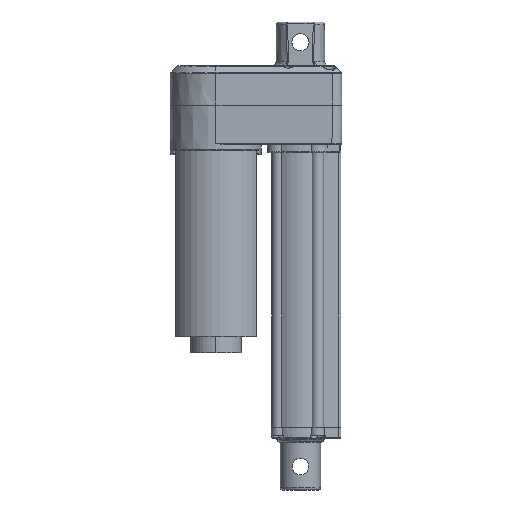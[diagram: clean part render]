
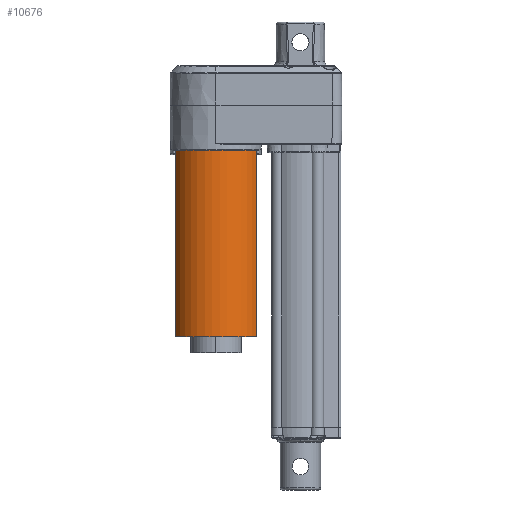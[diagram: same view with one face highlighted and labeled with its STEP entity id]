
A CAD part, front view. The second image highlights one B-rep face of the part: STEP entity #10676.
In plain terms, the highlighted cylindrical face has radius 22.5 mm (diameter 45 mm), a partial arc.
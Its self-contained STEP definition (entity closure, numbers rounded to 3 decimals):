
#107 = CARTESIAN_POINT ( 'NONE',  ( 0., 0., 92.3 ) ) ;
#1744 = LINE ( 'NONE', #23571, #10774 ) ;
#1859 = EDGE_CURVE ( 'NONE', #22512, #10139, #1744, .T. ) ;
#2175 = AXIS2_PLACEMENT_3D ( 'NONE', #107, #11652, #21245 ) ;
#2572 = CARTESIAN_POINT ( 'NONE',  ( 0., 0., 0. ) ) ;
#2654 = DIRECTION ( 'NONE',  ( 0., 0., 1. ) ) ;
#3058 = ORIENTED_EDGE ( 'NONE', *, *, #3819, .T. ) ;
#3819 = EDGE_CURVE ( 'NONE', #18571, #12207, #4438, .T. ) ;
#4438 = LINE ( 'NONE', #19027, #14036 ) ;
#4543 = DIRECTION ( 'NONE',  ( 1., 0., 0. ) ) ;
#8050 = FACE_OUTER_BOUND ( 'NONE', #20835, .T. ) ;
#8351 = ORIENTED_EDGE ( 'NONE', *, *, #22222, .F. ) ;
#9429 = DIRECTION ( 'NONE',  ( 0., 0., 1. ) ) ;
#10139 = VERTEX_POINT ( 'NONE', #13517 ) ;
#10414 = CARTESIAN_POINT ( 'NONE',  ( 10.308, 20., 92.3 ) ) ;
#10676 = ADVANCED_FACE ( 'NONE', ( #8050 ), #11958, .T. ) ;
#10774 = VECTOR ( 'NONE', #12049, 1000. ) ;
#11652 = DIRECTION ( 'NONE',  ( 0., 0., -1. ) ) ;
#11958 = CYLINDRICAL_SURFACE ( 'NONE', #2175, 22.5 ) ;
#12049 = DIRECTION ( 'NONE',  ( 0., 0., -1. ) ) ;
#12207 = VERTEX_POINT ( 'NONE', #10414 ) ;
#13517 = CARTESIAN_POINT ( 'NONE',  ( 10.308, -20., 0. ) ) ;
#14036 = VECTOR ( 'NONE', #9429, 1000. ) ;
#14166 = CARTESIAN_POINT ( 'NONE',  ( 0., 0., 92.3 ) ) ;
#16006 = DIRECTION ( 'NONE',  ( 0., 0., 1. ) ) ;
#16073 = DIRECTION ( 'NONE',  ( 1., 0., 0. ) ) ;
#16562 = AXIS2_PLACEMENT_3D ( 'NONE', #14166, #2654, #16073 ) ;
#16810 = ORIENTED_EDGE ( 'NONE', *, *, #1859, .T. ) ;
#18571 = VERTEX_POINT ( 'NONE', #21703 ) ;
#19027 = CARTESIAN_POINT ( 'NONE',  ( 10.308, 20., 92.3 ) ) ;
#20097 = EDGE_CURVE ( 'NONE', #10139, #18571, #22791, .T. ) ;
#20835 = EDGE_LOOP ( 'NONE', ( #8351, #16810, #21097, #3058 ) ) ;
#20978 = CARTESIAN_POINT ( 'NONE',  ( 10.308, -20., 92.3 ) ) ;
#21097 = ORIENTED_EDGE ( 'NONE', *, *, #20097, .T. ) ;
#21245 = DIRECTION ( 'NONE',  ( -1., 0., 0. ) ) ;
#21685 = AXIS2_PLACEMENT_3D ( 'NONE', #2572, #16006, #4543 ) ;
#21703 = CARTESIAN_POINT ( 'NONE',  ( 10.308, 20., 0. ) ) ;
#22222 = EDGE_CURVE ( 'NONE', #22512, #12207, #24529, .T. ) ;
#22512 = VERTEX_POINT ( 'NONE', #20978 ) ;
#22791 = CIRCLE ( 'NONE', #21685, 22.5 ) ;
#23571 = CARTESIAN_POINT ( 'NONE',  ( 10.308, -20., 92.3 ) ) ;
#24529 = CIRCLE ( 'NONE', #16562, 22.5 ) ;
